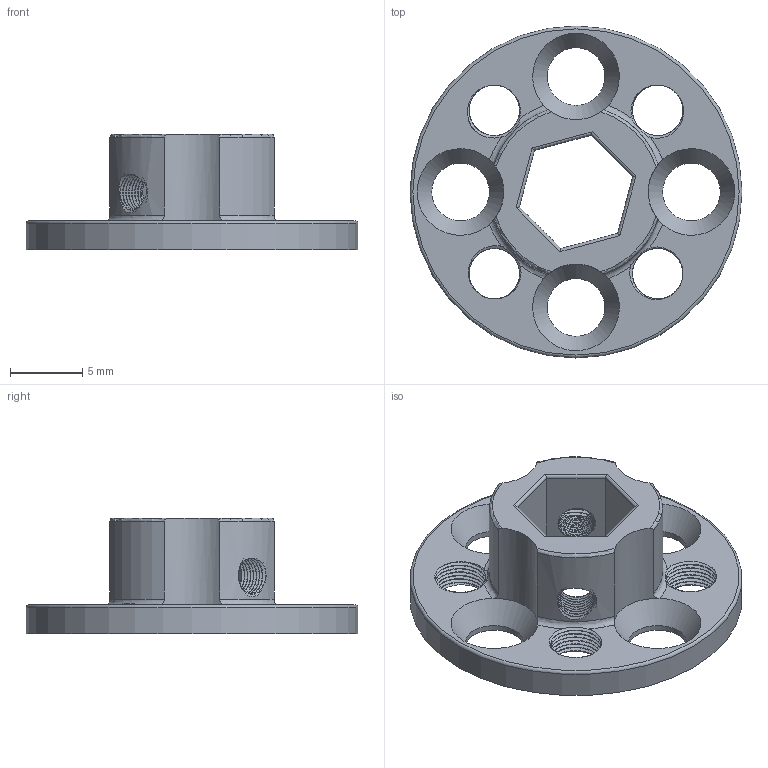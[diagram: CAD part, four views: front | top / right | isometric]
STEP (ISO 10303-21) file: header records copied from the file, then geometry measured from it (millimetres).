
FILE_DESCRIPTION( ('This file contains a STEP AP42 implementation' ,'as created by ZW3D STEP Interface translator.') ,'2;1' );
FILE_NAME( 'BL-7mmHexAdapter.stp' ,'25 222.145416', (''), ('ZWCAD Software Co.'), 'Version 1.0', 'ZW3D to STEP translator', '' );
FILE_SCHEMA(('AUTOMOTIVE_DESIGN { 1 0 10303 214 1 1 1 1 }'));
Length unit declared in the file: millimetre
Products named in the file (2): 0; BL-7mmHexAdapter
Bounding box: 23 x 23 x 8 mm (x, y, z)
Volume: 844.3 mm3; surface area: 1401.2 mm2
Topology: 1 solids, 1 shells, 107 faces, 330 edges, 207 vertices
Faces by surface type: cylinder 71, bspline 18, plane 9, torus 9
Full cylindrical faces by diameter (mm): 2.5 x15, 3.5 x24, 4 x4, 23 x1
Entity records: 6363 total; most frequent: CARTESIAN_POINT 3806, ORIENTED_EDGE 638, DIRECTION 370, EDGE_CURVE 319, VERTEX_POINT 207, AXIS2_PLACEMENT_3D 142, EDGE_LOOP 122, FACE_OUTER_BOUND 107
